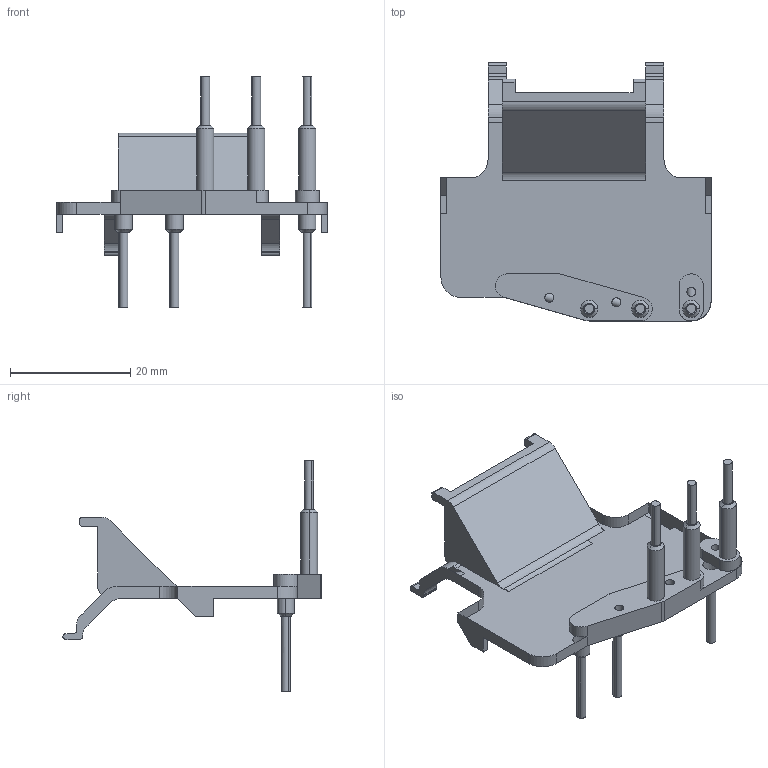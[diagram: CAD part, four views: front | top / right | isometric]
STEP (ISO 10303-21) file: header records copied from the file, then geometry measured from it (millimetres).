
FILE_DESCRIPTION((''),'2;1');
FILE_NAME('12M90038G01-330-CMS216','2023-07-17T11:36:51',('design1'),(''),'CREO PARAMETRIC BY PTC INC, 2022284','CREO PARAMETRIC BY PTC INC, 2022284','');
FILE_SCHEMA(('CONFIG_CONTROL_DESIGN'));
Length unit declared in the file: millimetre
Products named in the file (1): 12M90038G01-330-CMS216
Bounding box: 45 x 43 x 38.4 mm (x, y, z)
Volume: 4174.4 mm3; surface area: 4788.6 mm2
Topology: 1 solids, 1 shells, 145 faces, 381 edges, 253 vertices
Faces by surface type: cylinder 67, plane 66, cone 12
Entity records: 4652 total; most frequent: CARTESIAN_POINT 903, DIRECTION 803, ORIENTED_EDGE 762, EDGE_CURVE 381, AXIS2_PLACEMENT_3D 290, VERTEX_POINT 253, VECTOR 223, LINE 223
